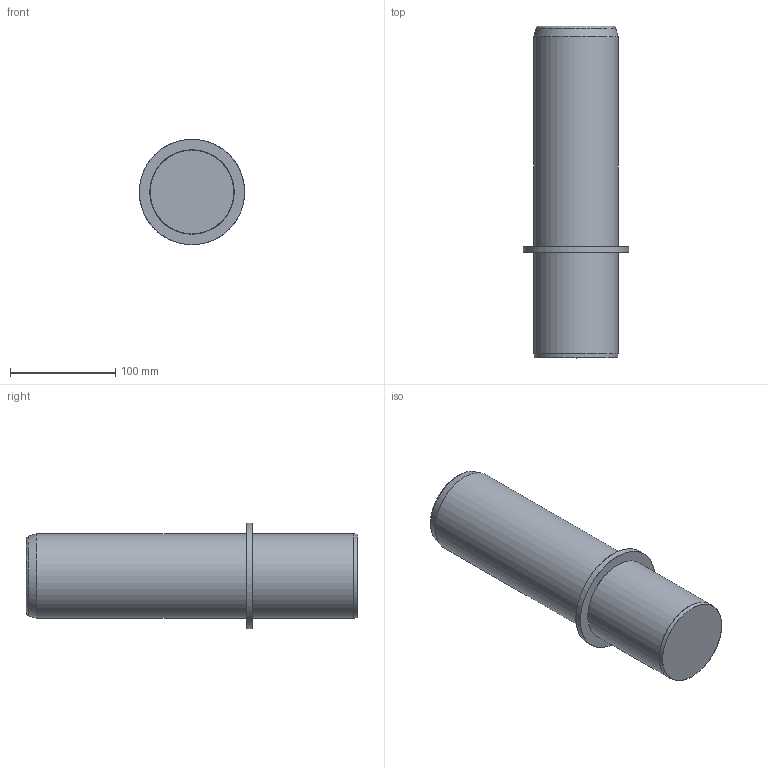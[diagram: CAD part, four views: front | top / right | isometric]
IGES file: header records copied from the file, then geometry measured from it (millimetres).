
Start section: Missler Software BP 521, 31674 Labege Cedex, France Tel   : +33 (0)5 61 00 03 00 Fax   : +33 (0)5 61 00 03 03 Email : sup.topsolid@topsolid.com
Global section: file name: D:\Cuma\D13.01\D13.01_80315.igs; native system: TopSolid v605250 Missler Software; preprocessor: IGES preprocessor v100000; date: 030115.012407; units: millimetre
Bounding box: 100 x 315 x 100 mm (x, y, z)
Surface area: 95382.6 mm2 (no closed solid volume)
Topology: 0 solids, 0 shells, 13 faces, 238 edges, 230 vertices
Faces by surface type: bspline 13
